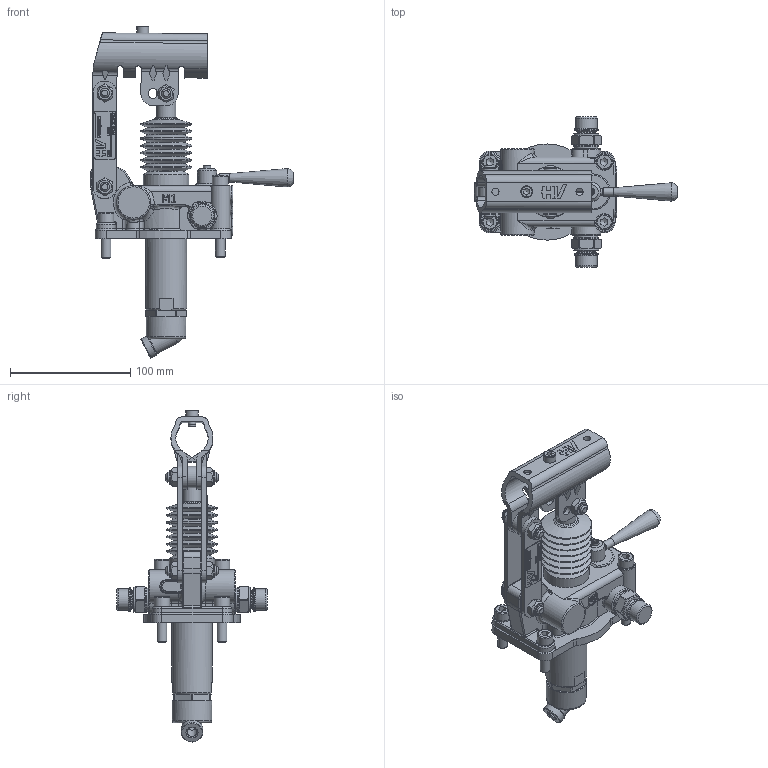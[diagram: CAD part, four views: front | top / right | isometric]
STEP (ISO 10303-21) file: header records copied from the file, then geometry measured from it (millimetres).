
FILE_DESCRIPTION((''),'2;1');
FILE_NAME('G:\HV_HYDRAULIC\AZIENDA_HV_HYDRAULIC\ARCHIVIO_DISEGNI\5_PRODOTTI_FINITI\1_POMPE_MANUALI\6056_PMD_25\6056.0050_PMD_25_dna_s_(HV)\6056.0050.stp','2024-03-04T08:28:32',('christian.scardovi'),(''),'Autodesk Inventor 2013','Autodesk Inventor 2013','');
FILE_SCHEMA(('AUTOMOTIVE_DESIGN { 1 0 10303 214 1 1 1 1 }'));
Length unit declared in the file: millimetre
Products named in the file (1): 6056.0050
Bounding box: 169 x 125 x 276.08 mm (x, y, z)
Surface area: 124350.8 mm2
Topology: 2 solids, 3 shells, 1499 faces, 3784 edges, 2400 vertices
Faces by surface type: plane 740, cylinder 318, bspline 184, cone 132, torus 112, sphere 13
Full cylindrical faces by diameter (mm): 4 x2, 4.917 x1, 5 x5, 6 x7, 6.5 x1, 7 x1, 8 x15, 8.566 x1, 9 x3, 9.2 x1, 10 x3, 10.376 x1, 11.05 x6, 11.445 x2, 12 x5, 13 x4, 13.2 x1, 14 x4, 15.9 x2, 16 x6, 16.6 x2, 17.6 x1, 18 x6, 19 x2, 20 x2, 21 x6, 22 x1, 23 x1, 24 x1, 25 x2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
Entity records: 46999 total; most frequent: CARTESIAN_POINT 12067, ORIENTED_EDGE 6932, DIRECTION 6405, EDGE_CURVE 3466, VERTEX_POINT 2325, AXIS2_PLACEMENT_3D 2260, VECTOR 1885, LINE 1885
